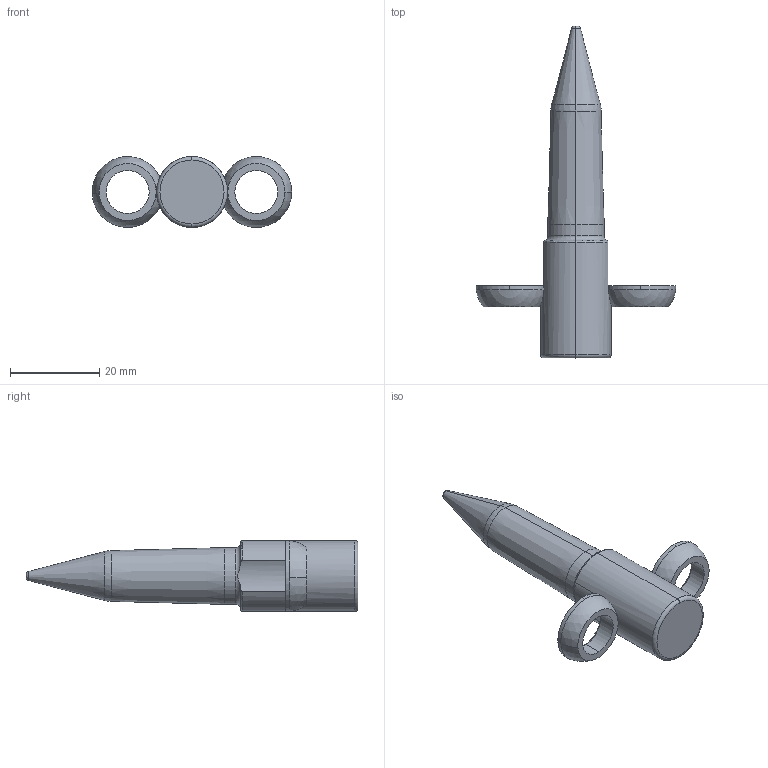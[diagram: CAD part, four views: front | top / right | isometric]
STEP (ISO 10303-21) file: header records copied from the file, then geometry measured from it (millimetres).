
FILE_DESCRIPTION (( 'STEP AP214' ), '1' );
FILE_NAME ('PA-T-.500-.100-1.0-3-A-F2.STEP', '2019-05-08T17:36:58', ( '' ), ( '' ), 'SwSTEP 2.0', 'SolidWorks 2017', '' );
FILE_SCHEMA (( 'AUTOMOTIVE_DESIGN' ));
Length unit declared in the file: inch
Products named in the file (3): SLPilot-PA-T-E_PA-T-.500-.100-1.0-3-A-F2; SLRadiusWasher_RadiusWasher-E; PA-T-.500-.100-1.0-3-A-F2
Assembly tree (3 placements, depth 2):
  PA-T-.500-.100-1.0-3-A-F2
    SLPilot-PA-T-E_PA-T-.500-.100-1.0-3-A-F2
    SLRadiusWasher_RadiusWasher-E  x2
Bounding box: 44.67 x 74.3 x 15.88 mm (x, y, z)
Volume: 10128.2 mm3; surface area: 4151.4 mm2
Topology: 3 solids, 3 shells, 49 faces, 112 edges, 69 vertices
Faces by surface type: cylinder 14, torus 11, plane 8, sphere 8, cone 8
Entity records: 1384 total; most frequent: CARTESIAN_POINT 332, DIRECTION 232, ORIENTED_EDGE 180, AXIS2_PLACEMENT_3D 107, EDGE_CURVE 90, CIRCLE 62, VERTEX_POINT 55, EDGE_LOOP 41
